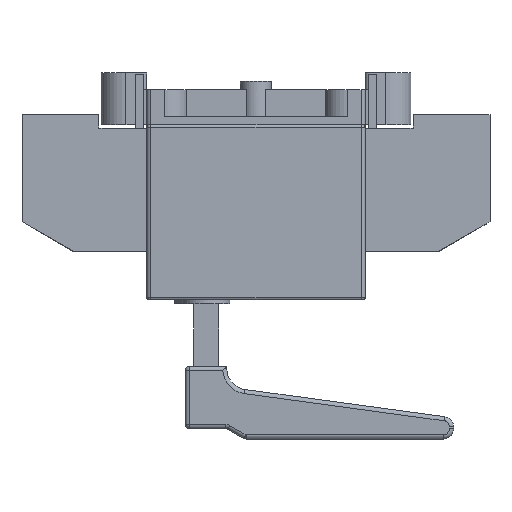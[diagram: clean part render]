
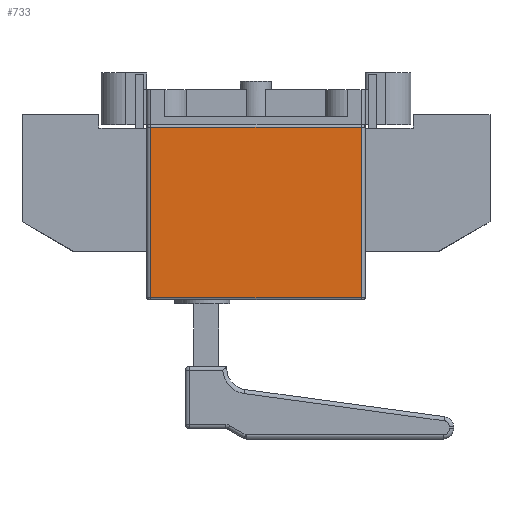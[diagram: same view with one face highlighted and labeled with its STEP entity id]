
A CAD part, left-side view. The second image highlights one B-rep face of the part: STEP entity #733.
In plain terms, the highlighted planar face has unit normal (-1, 0, 0).
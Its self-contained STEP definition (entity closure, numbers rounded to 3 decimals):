
#282=FACE_OUTER_BOUND('',#1760,.T.);
#733=ADVANCED_FACE('',(#282),#1192,.F.);
#1192=PLANE('',#9582);
#1760=EDGE_LOOP('',(#3208,#3209,#3210,#3211));
#3208=ORIENTED_EDGE('',*,*,#6484,.T.);
#3209=ORIENTED_EDGE('',*,*,#6485,.T.);
#3210=ORIENTED_EDGE('',*,*,#6481,.F.);
#3211=ORIENTED_EDGE('',*,*,#6486,.T.);
#5522=VERTEX_POINT('',#13723);
#5523=VERTEX_POINT('',#13724);
#5524=VERTEX_POINT('',#13729);
#5525=VERTEX_POINT('',#13730);
#6481=EDGE_CURVE('',#5522,#5523,#7645,.T.);
#6484=EDGE_CURVE('',#5524,#5525,#7646,.T.);
#6485=EDGE_CURVE('',#5525,#5523,#7647,.T.);
#6486=EDGE_CURVE('',#5522,#5524,#7648,.T.);
#7645=LINE('',#13722,#8626);
#7646=LINE('',#13728,#8627);
#7647=LINE('',#13731,#8628);
#7648=LINE('',#13732,#8629);
#8626=VECTOR('',#10954,1.);
#8627=VECTOR('',#10961,1.);
#8628=VECTOR('',#10962,1.);
#8629=VECTOR('',#10963,1.);
#9582=AXIS2_PLACEMENT_3D('',#13733,#10964,#10965);
#10954=DIRECTION('',(0.,0.,1.));
#10961=DIRECTION('',(0.,0.,1.));
#10962=DIRECTION('',(0.,1.,0.));
#10963=DIRECTION('',(0.,-1.,0.));
#10964=DIRECTION('',(1.,0.,0.));
#10965=DIRECTION('',(0.,1.,0.));
#13722=CARTESIAN_POINT('',(-197.5,50.5,-84.));
#13723=CARTESIAN_POINT('',(-197.5,50.5,-83.));
#13724=CARTESIAN_POINT('',(-197.5,50.5,-1.));
#13728=CARTESIAN_POINT('',(-197.5,-50.5,-84.));
#13729=CARTESIAN_POINT('',(-197.5,-50.5,-83.));
#13730=CARTESIAN_POINT('',(-197.5,-50.5,-1.));
#13731=CARTESIAN_POINT('',(-197.5,-50.5,-1.));
#13732=CARTESIAN_POINT('',(-197.5,-50.5,-83.));
#13733=CARTESIAN_POINT('',(-197.5,-50.5,-84.));
